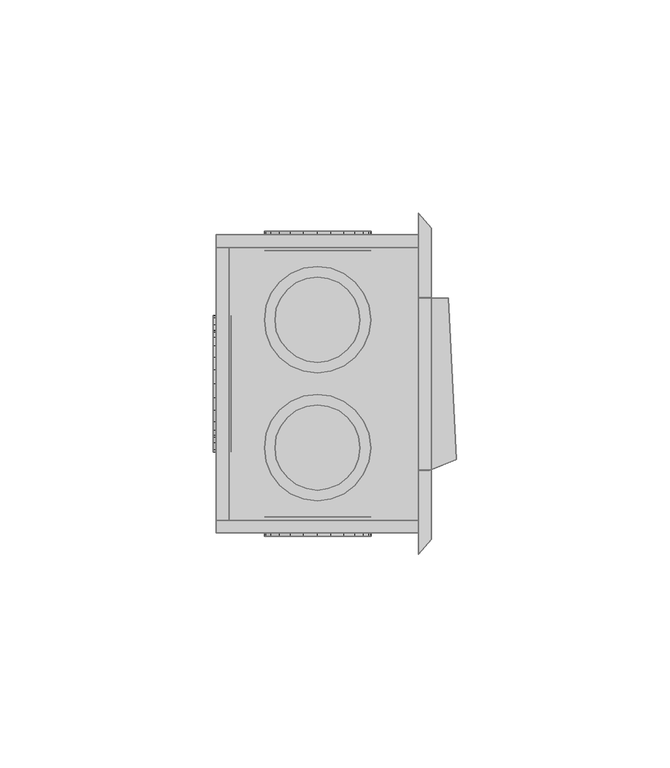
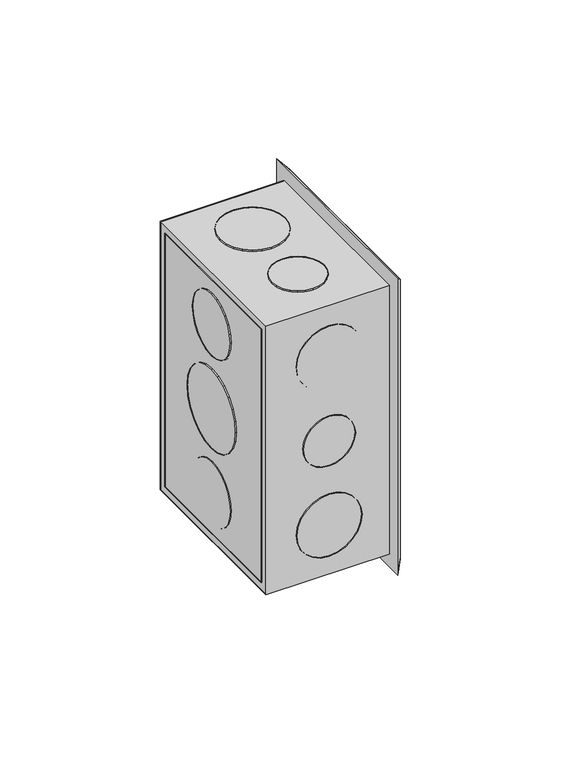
"""IFC4 building model written with IfcOpenShell, lengths in millimetres: proxy geometry,  210113 :  210113."""

from ifc_helpers import new_model, si_unit, origin, place, context, project, spatial, triangles, source, transform, mapped, element, save


def generic_models_2e906244(model_context):
    return source(origin(), model_context, "Body", "Tessellation", [
        triangles([(6623.3997849, 15666.8995239, 1254.3000378), (6623.3997849, 15663.899707, 1148.7000154), (6623.3997849, 15666.8995239, 1145.6999805), (6623.3997849, 15663.899707, 1251.2999302), (6623.3997849, 15596.9003082, 1254.3000378), (6623.3997849, 15599.9001251, 1251.2999302), (6623.3997849, 15596.9003082, 1145.6999805), (6623.3997849, 15599.9001251, 1148.7000154), (6575.8997772, 15663.899707, 1251.2999302), (6575.8997772, 15663.899707, 1148.7000154), (6575.8997772, 15596.9003082, 1254.3000378), (6575.8997772, 15596.9003082, 1145.6999805), (6575.8997772, 15599.9001251, 1251.2999302), (6575.8997772, 15666.8995239, 1145.6999805), (6575.8997772, 15599.9001251, 1148.7000154), (6575.8997772, 15666.8995239, 1254.3000378), (6578.9001755, 15663.899707, 1251.2999302), (6578.9001755, 15599.9001251, 1148.7000154), (6578.9001755, 15663.899707, 1148.7000154), (6578.9001755, 15599.9001251, 1251.2999302), (6579.400145, 15645.799649, 1191.9999887), (6579.400145, 15639.9000092, 1186.0999855), (6579.400145, 15643.1998077, 1188.6999722), (6579.400145, 15647.3995514, 1195.8999687), (6579.400145, 15636.1002411, 1184.5000105), (6579.400145, 15647.8995209, 1200.0000092), (6579.400145, 15631.9004974, 1183.9999683), (6579.400145, 15647.3995514, 1204.0999769), (6579.400145, 15627.799585, 1184.5000105), (6579.400145, 15645.799649, 1208.0000296), (6579.400145, 15623.899823, 1186.0999855), (6579.400145, 15643.1998077, 1211.2999735), (6579.400145, 15620.6000244, 1188.6999722), (6579.400145, 15639.9000092, 1213.9000328), (6579.400145, 15618.100177, 1191.9999887), (6579.400145, 15636.1002411, 1215.5000078), (6579.400145, 15616.5002747, 1195.8999687), (6579.400145, 15631.9004974, 1215.9999773), (6579.400145, 15615.9003113, 1200.0000092), (6579.400145, 15627.799585, 1215.5000078), (6579.400145, 15616.5002747, 1204.0999769), (6579.400145, 15623.899823, 1213.9000328), (6579.400145, 15618.100177, 1208.0000296), (6579.400145, 15620.6000244, 1211.2999735), (6575.1998199, 15627.799585, 1184.5000105), (6575.1998199, 15631.9004974, 1183.9999683), (6575.1998199, 15636.1002411, 1184.5000105), (6575.1998199, 15639.9000092, 1186.0999855), (6575.1998199, 15643.1998077, 1188.6999722), (6575.1998199, 15645.799649, 1191.9999887), (6575.1998199, 15647.3995514, 1195.8999687), (6575.1998199, 15647.8995209, 1200.0000092), (6575.1998199, 15647.3995514, 1204.0999769), (6575.1998199, 15645.799649, 1208.0000296), (6575.1998199, 15643.1998077, 1211.2999735), (6575.1998199, 15639.9000092, 1213.9000328), (6575.1998199, 15636.1002411, 1215.5000078), (6575.1998199, 15631.9004974, 1215.9999773), (6575.1998199, 15627.799585, 1215.5000078), (6575.1998199, 15623.899823, 1213.9000328), (6575.1998199, 15620.6000244, 1211.2999735), (6575.1998199, 15618.100177, 1208.0000296), (6575.1998199, 15616.5002747, 1204.0999769), (6575.1998199, 15615.9003113, 1200.0000092), (6575.1998199, 15616.5002747, 1195.8999687), (6575.1998199, 15618.100177, 1191.9999887), (6575.1998199, 15620.6000244, 1188.6999722), (6575.1998199, 15623.899823, 1186.0999855), (6579.400145, 15642.7998322, 1227.8000565), (6579.400145, 15638.2001129, 1223.2000465), (6579.400145, 15640.7999542, 1225.2000698), (6579.400145, 15643.9997589, 1230.8000187), (6579.400145, 15635.200296, 1221.8999805), (6579.400145, 15644.3997345, 1233.9999687), (6579.400145, 15631.9004974, 1221.500005), (6579.400145, 15643.9997589, 1237.2000641), (6579.400145, 15628.69953, 1221.8999805), (6579.400145, 15642.7998322, 1240.3000202), (6579.400145, 15625.6997131, 1223.2000465), (6579.400145, 15640.7999542, 1242.800013), (6579.400145, 15623.0998718, 1225.2000698), (6579.400145, 15621.0999939, 1227.8000565), (6579.400145, 15638.2001129, 1244.8000362), (6579.400145, 15635.200296, 1246.0999569), (6579.400145, 15619.9000671, 1230.8000187), (6579.400145, 15631.9004974, 1246.4999325), (6579.400145, 15619.4000977, 1233.9999687), (6579.400145, 15628.69953, 1246.0999569), (6579.400145, 15619.9000671, 1237.2000641), (6579.400145, 15621.0999939, 1240.3000202), (6579.400145, 15625.6997131, 1244.8000362), (6579.400145, 15623.0998718, 1242.800013), (6575.1998199, 15619.9000671, 1230.8000187), (6575.1998199, 15621.0999939, 1227.8000565), (6575.1998199, 15623.0998718, 1225.2000698), (6575.1998199, 15625.6997131, 1223.2000465), (6575.1998199, 15628.69953, 1221.8999805), (6575.1998199, 15631.9004974, 1221.500005), (6575.1998199, 15635.200296, 1221.8999805), (6575.1998199, 15638.2001129, 1223.2000465), (6575.1998199, 15640.7999542, 1225.2000698), (6575.1998199, 15642.7998322, 1227.8000565), (6575.1998199, 15643.9997589, 1230.8000187), (6575.1998199, 15644.3997345, 1233.9999687), (6575.1998199, 15643.9997589, 1237.2000641), (6575.1998199, 15642.7998322, 1240.3000202), (6575.1998199, 15640.7999542, 1242.800013), (6575.1998199, 15638.2001129, 1244.8000362), (6575.1998199, 15635.200296, 1246.0999569), (6575.1998199, 15631.9004974, 1246.4999325), (6575.1998199, 15628.69953, 1246.0999569), (6575.1998199, 15625.6997131, 1244.8000362), (6575.1998199, 15623.0998718, 1242.800013), (6575.1998199, 15621.0999939, 1240.3000202), (6575.1998199, 15619.9000671, 1237.2000641), (6575.1998199, 15619.4000977, 1233.9999687), (6575.1998199, 15638.2001129, 1155.1999821), (6575.1998199, 15642.7998322, 1159.6999981), (6575.1998199, 15640.7999542, 1157.2000053), (6575.1998199, 15635.200296, 1153.8999887), (6575.1998199, 15643.9997589, 1162.8000269), (6575.1998199, 15631.9004974, 1153.5000132), (6575.1998199, 15644.3997345, 1165.9999769), (6575.1998199, 15628.69953, 1153.8999887), (6575.1998199, 15643.9997589, 1169.1999996), (6575.1998199, 15625.6997131, 1155.1999821), (6575.1998199, 15642.7998322, 1172.2000345), (6575.1998199, 15623.0998718, 1157.2000053), (6575.1998199, 15640.7999542, 1174.8000212), (6575.1998199, 15621.0999939, 1159.6999981), (6575.1998199, 15638.2001129, 1176.7999718), (6575.1998199, 15619.9000671, 1162.8000269), (6575.1998199, 15635.200296, 1178.0999651), (6575.1998199, 15631.9004974, 1178.5000134), (6575.1998199, 15619.4000977, 1165.9999769), (6575.1998199, 15619.9000671, 1169.1999996), (6575.1998199, 15628.69953, 1178.0999651), (6575.1998199, 15621.0999939, 1172.2000345), (6575.1998199, 15625.6997131, 1176.7999718), (6575.1998199, 15623.0998718, 1174.8000212), (6579.400145, 15635.200296, 1178.0999651), (6579.400145, 15631.9004974, 1178.5000134), (6579.400145, 15638.2001129, 1176.7999718), (6579.400145, 15640.7999542, 1174.8000212), (6579.400145, 15642.7998322, 1172.2000345), (6579.400145, 15643.9997589, 1169.1999996), (6579.400145, 15644.3997345, 1165.9999769), (6579.400145, 15643.9997589, 1162.8000269), (6579.400145, 15642.7998322, 1159.6999981), (6579.400145, 15640.7999542, 1157.2000053), (6579.400145, 15638.2001129, 1155.1999821), (6579.400145, 15635.200296, 1153.8999887), (6579.400145, 15631.9004974, 1153.5000132), (6579.400145, 15628.69953, 1153.8999887), (6579.400145, 15625.6997131, 1155.1999821), (6579.400145, 15623.0998718, 1157.2000053), (6579.400145, 15621.0999939, 1159.6999981), (6579.400145, 15619.9000671, 1162.8000269), (6579.400145, 15619.4000977, 1165.9999769), (6579.400145, 15619.9000671, 1169.1999996), (6579.400145, 15621.0999939, 1172.2000345), (6579.400145, 15623.0998718, 1174.8000212), (6579.400145, 15625.6997131, 1176.7999718), (6579.400145, 15628.69953, 1178.0999651), (6594.6997925, 15663.0997559, 1191.3000315), (6591.0000183, 15663.0997559, 1195.0000237), (6592.5999207, 15663.0997559, 1192.9000065), (6590.0000793, 15663.0997559, 1197.4000225), (6597.1002274, 15663.0997559, 1190.3000198), (6589.7000977, 15663.0997559, 1200.0000092), (6599.7000687, 15663.0997559, 1189.9999655), (6602.1999161, 15663.0997559, 1190.3000198), (6590.0000793, 15663.0997559, 1202.5999958), (6591.0000183, 15663.0997559, 1204.9999947), (6604.6997635, 15663.0997559, 1191.3000315), (6592.5999207, 15663.0997559, 1207.1000118), (6606.7002228, 15663.0997559, 1192.9000065), (6608.3001251, 15663.0997559, 1195.0000237), (6594.6997925, 15663.0997559, 1208.6999868), (6609.3000641, 15663.0997559, 1197.4000225), (6597.1002274, 15663.0997559, 1209.6999985), (6609.7000397, 15663.0997559, 1200.0000092), (6599.7000687, 15663.0997559, 1209.9999802), (6609.3000641, 15663.0997559, 1202.5999958), (6602.1999161, 15663.0997559, 1209.6999985), (6604.6997635, 15663.0997559, 1208.6999868), (6608.3001251, 15663.0997559, 1204.9999947), (6606.7002228, 15663.0997559, 1207.1000118), (6599.7000687, 15667.6994751, 1189.9999655), (6597.1002274, 15667.6994751, 1190.3000198), (6602.1999161, 15667.6994751, 1190.3000198), (6604.6997635, 15667.6994751, 1191.3000315), (6606.7002228, 15667.6994751, 1192.9000065), (6608.3001251, 15667.6994751, 1195.0000237), (6609.3000641, 15667.6994751, 1197.4000225), (6609.7000397, 15667.6994751, 1200.0000092), (6609.3000641, 15667.6994751, 1202.5999958), (6608.3001251, 15667.6994751, 1204.9999947), (6606.7002228, 15667.6994751, 1207.1000118), (6604.6997635, 15667.6994751, 1208.6999868), (6602.1999161, 15667.6994751, 1209.6999985), (6599.7000687, 15667.6994751, 1209.9999802), (6597.1002274, 15667.6994751, 1209.6999985), (6594.6997925, 15667.6994751, 1208.6999868), (6592.5999207, 15667.6994751, 1207.1000118), (6591.0000183, 15667.6994751, 1204.9999947), (6590.0000793, 15667.6994751, 1202.5999958), (6589.7000977, 15667.6994751, 1200.0000092), (6590.0000793, 15667.6994751, 1197.4000225), (6591.0000183, 15667.6994751, 1195.0000237), (6592.5999207, 15667.6994751, 1192.9000065), (6594.6997925, 15667.6994751, 1191.3000315), (6593.3998718, 15663.0997559, 1223.2000465), (6588.8001526, 15663.0997559, 1227.8000565), (6590.8000305, 15663.0997559, 1225.2000698), (6596.4002701, 15663.0997559, 1221.8999805), (6587.6002258, 15663.0997559, 1230.8000187), (6587.2002502, 15663.0997559, 1233.9999687), (6599.7000687, 15663.0997559, 1221.500005), (6602.8998734, 15663.0997559, 1221.8999805), (6587.6002258, 15663.0997559, 1237.2000641), (6588.8001526, 15663.0997559, 1240.3000202), (6605.9002716, 15663.0997559, 1223.2000465), (6608.5001129, 15663.0997559, 1225.2000698), (6590.8000305, 15663.0997559, 1242.800013), (6610.4999908, 15663.0997559, 1227.8000565), (6593.3998718, 15663.0997559, 1244.8000362), (6611.6999176, 15663.0997559, 1230.8000187), (6596.4002701, 15663.0997559, 1246.0999569), (6612.1998871, 15663.0997559, 1233.9999687), (6599.7000687, 15663.0997559, 1246.4999325), (6611.6999176, 15663.0997559, 1237.2000641), (6602.8998734, 15663.0997559, 1246.0999569), (6610.4999908, 15663.0997559, 1240.3000202), (6605.9002716, 15663.0997559, 1244.8000362), (6608.5001129, 15663.0997559, 1242.800013), (6599.7000687, 15667.6994751, 1221.500005), (6596.4002701, 15667.6994751, 1221.8999805), (6602.8998734, 15667.6994751, 1221.8999805), (6605.9002716, 15667.6994751, 1223.2000465), (6608.5001129, 15667.6994751, 1225.2000698), (6610.4999908, 15667.6994751, 1227.8000565), (6611.6999176, 15667.6994751, 1230.8000187), (6612.1998871, 15667.6994751, 1233.9999687), (6611.6999176, 15667.6994751, 1237.2000641), (6610.4999908, 15667.6994751, 1240.3000202), (6608.5001129, 15667.6994751, 1242.800013), (6605.9002716, 15667.6994751, 1244.8000362), (6602.8998734, 15667.6994751, 1246.0999569), (6599.7000687, 15667.6994751, 1246.4999325), (6596.4002701, 15667.6994751, 1246.0999569), (6593.3998718, 15667.6994751, 1244.8000362), (6590.8000305, 15667.6994751, 1242.800013), (6588.8001526, 15667.6994751, 1240.3000202), (6587.6002258, 15667.6994751, 1237.2000641), (6587.2002502, 15667.6994751, 1233.9999687), (6587.6002258, 15667.6994751, 1230.8000187), (6588.8001526, 15667.6994751, 1227.8000565), (6590.8000305, 15667.6994751, 1225.2000698), (6593.3998718, 15667.6994751, 1223.2000465), (6588.8001526, 15667.6994751, 1159.6999981), (6593.3998718, 15667.6994751, 1155.1999821), (6590.8000305, 15667.6994751, 1157.2000053), (6587.6002258, 15667.6994751, 1162.8000269), (6596.4002701, 15667.6994751, 1153.8999887), (6587.2002502, 15667.6994751, 1165.9999769), (6599.7000687, 15667.6994751, 1153.5000132), (6587.6002258, 15667.6994751, 1169.1999996), (6602.8998734, 15667.6994751, 1153.8999887), (6588.8001526, 15667.6994751, 1172.2000345), (6605.9002716, 15667.6994751, 1155.1999821), (6590.8000305, 15667.6994751, 1174.8000212), (6608.5001129, 15667.6994751, 1157.2000053), (6593.3998718, 15667.6994751, 1176.7999718), (6610.4999908, 15667.6994751, 1159.6999981), (6596.4002701, 15667.6994751, 1178.0999651), (6611.6999176, 15667.6994751, 1162.8000269), (6599.7000687, 15667.6994751, 1178.5000134), (6612.1998871, 15667.6994751, 1165.9999769), (6602.8998734, 15667.6994751, 1178.0999651), (6611.6999176, 15667.6994751, 1169.1999996), (6605.9002716, 15667.6994751, 1176.7999718), (6610.4999908, 15667.6994751, 1172.2000345), (6608.5001129, 15667.6994751, 1174.8000212), (6596.4002701, 15663.0997559, 1178.0999651), (6599.7000687, 15663.0997559, 1178.5000134), (6602.8998734, 15663.0997559, 1178.0999651), (6605.9002716, 15663.0997559, 1176.7999718), (6608.5001129, 15663.0997559, 1174.8000212), (6610.4999908, 15663.0997559, 1172.2000345), (6611.6999176, 15663.0997559, 1169.1999996), (6612.1998871, 15663.0997559, 1165.9999769), (6611.6999176, 15663.0997559, 1162.8000269), (6610.4999908, 15663.0997559, 1159.6999981), (6608.5001129, 15663.0997559, 1157.2000053), (6605.9002716, 15663.0997559, 1155.1999821), (6602.8998734, 15663.0997559, 1153.8999887), (6599.7000687, 15663.0997559, 1153.5000132), (6596.4002701, 15663.0997559, 1153.8999887), (6593.3998718, 15663.0997559, 1155.1999821), (6590.8000305, 15663.0997559, 1157.2000053), (6588.8001526, 15663.0997559, 1159.6999981), (6587.6002258, 15663.0997559, 1162.8000269), (6587.2002502, 15663.0997559, 1165.9999769), (6587.6002258, 15663.0997559, 1169.1999996), (6588.8001526, 15663.0997559, 1172.2000345), (6590.8000305, 15663.0997559, 1174.8000212), (6593.3998718, 15663.0997559, 1176.7999718), (6591.0000183, 15600.7000763, 1195.0000237), (6594.6997925, 15600.7000763, 1191.3000315), (6592.5999207, 15600.7000763, 1192.9000065), (6590.0000793, 15600.7000763, 1197.4000225), (6597.1002274, 15600.7000763, 1190.3000198), (6589.7000977, 15600.7000763, 1200.0000092), (6599.7000687, 15600.7000763, 1189.9999655), (6590.0000793, 15600.7000763, 1202.5999958), (6602.1999161, 15600.7000763, 1190.3000198), (6591.0000183, 15600.7000763, 1204.9999947), (6604.6997635, 15600.7000763, 1191.3000315), (6592.5999207, 15600.7000763, 1207.1000118), (6606.7002228, 15600.7000763, 1192.9000065), (6594.6997925, 15600.7000763, 1208.6999868), (6608.3001251, 15600.7000763, 1195.0000237), (6597.1002274, 15600.7000763, 1209.6999985), (6609.3000641, 15600.7000763, 1197.4000225), (6609.7000397, 15600.7000763, 1200.0000092), (6599.7000687, 15600.7000763, 1209.9999802), (6602.1999161, 15600.7000763, 1209.6999985), (6609.3000641, 15600.7000763, 1202.5999958), (6604.6997635, 15600.7000763, 1208.6999868), (6608.3001251, 15600.7000763, 1204.9999947), (6606.7002228, 15600.7000763, 1207.1000118), (6597.1002274, 15596.1003571, 1209.6999985), (6599.7000687, 15596.1003571, 1209.9999802), (6602.1999161, 15596.1003571, 1209.6999985), (6604.6997635, 15596.1003571, 1208.6999868), (6606.7002228, 15596.1003571, 1207.1000118), (6608.3001251, 15596.1003571, 1204.9999947), (6609.3000641, 15596.1003571, 1202.5999958), (6609.7000397, 15596.1003571, 1200.0000092), (6609.3000641, 15596.1003571, 1197.4000225), (6608.3001251, 15596.1003571, 1195.0000237), (6606.7002228, 15596.1003571, 1192.9000065), (6604.6997635, 15596.1003571, 1191.3000315), (6602.1999161, 15596.1003571, 1190.3000198), (6599.7000687, 15596.1003571, 1189.9999655), (6597.1002274, 15596.1003571, 1190.3000198), (6594.6997925, 15596.1003571, 1191.3000315), (6592.5999207, 15596.1003571, 1192.9000065), (6591.0000183, 15596.1003571, 1195.0000237), (6590.0000793, 15596.1003571, 1197.4000225), (6589.7000977, 15596.1003571, 1200.0000092), (6590.0000793, 15596.1003571, 1202.5999958), (6591.0000183, 15596.1003571, 1204.9999947), (6592.5999207, 15596.1003571, 1207.1000118), (6594.6997925, 15596.1003571, 1208.6999868), (6588.8001526, 15600.7000763, 1159.6999981), (6593.3998718, 15600.7000763, 1155.1999821), (6590.8000305, 15600.7000763, 1157.2000053), (6587.6002258, 15600.7000763, 1162.8000269), (6596.4002701, 15600.7000763, 1153.8999887), (6587.2002502, 15600.7000763, 1165.9999769), (6599.7000687, 15600.7000763, 1153.5000132), (6587.6002258, 15600.7000763, 1169.1999996), (6602.8998734, 15600.7000763, 1153.8999887), (6588.8001526, 15600.7000763, 1172.2000345), (6605.9002716, 15600.7000763, 1155.1999821), (6590.8000305, 15600.7000763, 1174.8000212), (6608.5001129, 15600.7000763, 1157.2000053), (6593.3998718, 15600.7000763, 1176.7999718), (6610.4999908, 15600.7000763, 1159.6999981), (6596.4002701, 15600.7000763, 1178.0999651), (6611.6999176, 15600.7000763, 1162.8000269), (6599.7000687, 15600.7000763, 1178.5000134), (6612.1998871, 15600.7000763, 1165.9999769), (6602.8998734, 15600.7000763, 1178.0999651), (6611.6999176, 15600.7000763, 1169.1999996), (6605.9002716, 15600.7000763, 1176.7999718), (6610.4999908, 15600.7000763, 1172.2000345), (6608.5001129, 15600.7000763, 1174.8000212), (6596.4002701, 15596.1003571, 1178.0999651), (6599.7000687, 15596.1003571, 1178.5000134), (6602.8998734, 15596.1003571, 1178.0999651), (6605.9002716, 15596.1003571, 1176.7999718), (6608.5001129, 15596.1003571, 1174.8000212), (6610.4999908, 15596.1003571, 1172.2000345), (6611.6999176, 15596.1003571, 1169.1999996), (6612.1998871, 15596.1003571, 1165.9999769), (6611.6999176, 15596.1003571, 1162.8000269), (6610.4999908, 15596.1003571, 1159.6999981), (6608.5001129, 15596.1003571, 1157.2000053), (6605.9002716, 15596.1003571, 1155.1999821), (6602.8998734, 15596.1003571, 1153.8999887), (6599.7000687, 15596.1003571, 1153.5000132), (6596.4002701, 15596.1003571, 1153.8999887), (6593.3998718, 15596.1003571, 1155.1999821), (6590.8000305, 15596.1003571, 1157.2000053), (6588.8001526, 15596.1003571, 1159.6999981), (6587.6002258, 15596.1003571, 1162.8000269), (6587.2002502, 15596.1003571, 1165.9999769), (6587.6002258, 15596.1003571, 1169.1999996), (6588.8001526, 15596.1003571, 1172.2000345), (6590.8000305, 15596.1003571, 1174.8000212), (6593.3998718, 15596.1003571, 1176.7999718), (6593.3998718, 15596.1003571, 1223.2000465), (6588.8001526, 15596.1003571, 1227.8000565), (6590.8000305, 15596.1003571, 1225.2000698), (6596.4002701, 15596.1003571, 1221.8999805), (6587.6002258, 15596.1003571, 1230.8000187), (6587.2002502, 15596.1003571, 1233.9999687), (6599.7000687, 15596.1003571, 1221.500005), (6602.8998734, 15596.1003571, 1221.8999805), (6587.6002258, 15596.1003571, 1237.2000641), (6588.8001526, 15596.1003571, 1240.3000202), (6605.9002716, 15596.1003571, 1223.2000465), (6608.5001129, 15596.1003571, 1225.2000698), (6590.8000305, 15596.1003571, 1242.800013), (6610.4999908, 15596.1003571, 1227.8000565), (6593.3998718, 15596.1003571, 1244.8000362), (6611.6999176, 15596.1003571, 1230.8000187), (6596.4002701, 15596.1003571, 1246.0999569), (6612.1998871, 15596.1003571, 1233.9999687), (6599.7000687, 15596.1003571, 1246.4999325), (6611.6999176, 15596.1003571, 1237.2000641), (6602.8998734, 15596.1003571, 1246.0999569), (6610.4999908, 15596.1003571, 1240.3000202), (6605.9002716, 15596.1003571, 1244.8000362), (6608.5001129, 15596.1003571, 1242.800013), (6599.7000687, 15600.7000763, 1221.500005), (6596.4002701, 15600.7000763, 1221.8999805), (6602.8998734, 15600.7000763, 1221.8999805), (6605.9002716, 15600.7000763, 1223.2000465), (6608.5001129, 15600.7000763, 1225.2000698), (6610.4999908, 15600.7000763, 1227.8000565), (6611.6999176, 15600.7000763, 1230.8000187), (6612.1998871, 15600.7000763, 1233.9999687), (6611.6999176, 15600.7000763, 1237.2000641), (6610.4999908, 15600.7000763, 1240.3000202), (6608.5001129, 15600.7000763, 1242.800013), (6605.9002716, 15600.7000763, 1244.8000362), (6602.8998734, 15600.7000763, 1246.0999569), (6599.7000687, 15600.7000763, 1246.4999325), (6596.4002701, 15600.7000763, 1246.0999569), (6593.3998718, 15600.7000763, 1244.8000362), (6590.8000305, 15600.7000763, 1242.800013), (6588.8001526, 15600.7000763, 1240.3000202), (6587.6002258, 15600.7000763, 1237.2000641), (6587.2002502, 15600.7000763, 1233.9999687), (6587.6002258, 15600.7000763, 1230.8000187), (6588.8001526, 15600.7000763, 1227.8000565), (6590.8000305, 15600.7000763, 1225.2000698), (6593.3998718, 15600.7000763, 1223.2000465), (6593.3998718, 15657.8000793, 1250.9999485), (6588.8001526, 15653.2003601, 1250.9999485), (6590.8000305, 15655.8002014, 1250.9999485), (6596.4002701, 15659.0000061, 1250.9999485), (6587.6002258, 15650.2005432, 1250.9999485), (6587.2002502, 15646.8995819, 1250.9999485), (6599.7000687, 15659.3999817, 1250.9999485), (6602.8998734, 15659.0000061, 1250.9999485), (6587.6002258, 15643.6997772, 1250.9999485), (6588.8001526, 15640.6999603, 1250.9999485), (6605.9002716, 15657.8000793, 1250.9999485), (6608.5001129, 15655.8002014, 1250.9999485), (6590.8000305, 15638.100119, 1250.9999485), (6593.3998718, 15636.1002411, 1250.9999485), (6610.4999908, 15653.2003601, 1250.9999485), (6611.6999176, 15650.2005432, 1250.9999485), (6596.4002701, 15634.9003143, 1250.9999485), (6612.1998871, 15646.8995819, 1250.9999485), (6599.7000687, 15634.4003448, 1250.9999485), (6611.6999176, 15643.6997772, 1250.9999485), (6602.8998734, 15634.9003143, 1250.9999485), (6605.9002716, 15636.1002411, 1250.9999485), (6610.4999908, 15640.6999603, 1250.9999485), (6608.5001129, 15638.100119, 1250.9999485), (6587.2002502, 15646.8995819, 1255.1999828), (6587.6002258, 15643.6997772, 1255.1999828), (6587.6002258, 15650.2005432, 1255.1999828), (6588.8001526, 15653.2003601, 1255.1999828), (6590.8000305, 15655.8002014, 1255.1999828), (6593.3998718, 15657.8000793, 1255.1999828), (6596.4002701, 15659.0000061, 1255.1999828), (6599.7000687, 15659.3999817, 1255.1999828), (6602.8998734, 15659.0000061, 1255.1999828), (6605.9002716, 15657.8000793, 1255.1999828), (6608.5001129, 15655.8002014, 1255.1999828), (6610.4999908, 15653.2003601, 1255.1999828), (6611.6999176, 15650.2005432, 1255.1999828), (6612.1998871, 15646.8995819, 1255.1999828), (6611.6999176, 15643.6997772, 1255.1999828), (6610.4999908, 15640.6999603, 1255.1999828), (6608.5001129, 15638.100119, 1255.1999828), (6605.9002716, 15636.1002411, 1255.1999828), (6602.8998734, 15634.9003143, 1255.1999828), (6599.7000687, 15634.4003448, 1255.1999828), (6596.4002701, 15634.9003143, 1255.1999828), (6593.3998718, 15636.1002411, 1255.1999828), (6590.8000305, 15638.100119, 1255.1999828), (6588.8001526, 15640.6999603, 1255.1999828), (6594.6997925, 15625.5997192, 1250.9999485), (6591.0000183, 15621.8999451, 1250.9999485), (6592.5999207, 15623.9998169, 1250.9999485), (6590.0000793, 15619.5000916, 1250.9999485), (6597.1002274, 15626.5996582, 1250.9999485), (6589.7000977, 15616.9002502, 1250.9999485), (6599.7000687, 15626.8996399, 1250.9999485), (6602.1999161, 15626.5996582, 1250.9999485), (6590.0000793, 15614.3004089, 1250.9999485), (6591.0000183, 15611.9005554, 1250.9999485), (6604.6997635, 15625.5997192, 1250.9999485), (6592.5999207, 15609.8995148, 1250.9999485), (6606.7002228, 15623.9998169, 1250.9999485), (6608.3001251, 15621.8999451, 1250.9999485), (6594.6997925, 15608.2996124, 1250.9999485), (6597.1002274, 15607.2996735, 1250.9999485), (6609.3000641, 15619.5000916, 1250.9999485), (6609.7000397, 15616.9002502, 1250.9999485), (6599.7000687, 15606.8996979, 1250.9999485), (6609.3000641, 15614.3004089, 1250.9999485), (6602.1999161, 15607.2996735, 1250.9999485), (6608.3001251, 15611.9005554, 1250.9999485), (6604.6997635, 15608.2996124, 1250.9999485), (6606.7002228, 15609.8995148, 1250.9999485), (6590.0000793, 15614.3004089, 1255.1999828), (6591.0000183, 15611.9005554, 1255.1999828), (6589.7000977, 15616.9002502, 1255.1999828), (6590.0000793, 15619.5000916, 1255.1999828), (6591.0000183, 15621.8999451, 1255.1999828), (6592.5999207, 15623.9998169, 1255.1999828), (6594.6997925, 15625.5997192, 1255.1999828), (6597.1002274, 15626.5996582, 1255.1999828), (6599.7000687, 15626.8996399, 1255.1999828), (6602.1999161, 15626.5996582, 1255.1999828), (6604.6997635, 15625.5997192, 1255.1999828), (6606.7002228, 15623.9998169, 1255.1999828), (6608.3001251, 15621.8999451, 1255.1999828), (6609.3000641, 15619.5000916, 1255.1999828), (6609.7000397, 15616.9002502, 1255.1999828), (6609.3000641, 15614.3004089, 1255.1999828), (6608.3001251, 15611.9005554, 1255.1999828), (6606.7002228, 15609.8995148, 1255.1999828), (6604.6997635, 15608.2996124, 1255.1999828), (6602.1999161, 15607.2996735, 1255.1999828), (6599.7000687, 15606.8996979, 1255.1999828), (6597.1002274, 15607.2996735, 1255.1999828), (6594.6997925, 15608.2996124, 1255.1999828), (6592.5999207, 15609.8995148, 1255.1999828), (6594.6997925, 15655.6002136, 1144.8000355), (6591.0000183, 15651.9004395, 1144.8000355), (6592.5999207, 15654.0003113, 1144.8000355), (6590.0000793, 15649.4994232, 1144.8000355), (6597.1002274, 15656.6001526, 1144.8000355), (6589.7000977, 15646.8995819, 1144.8000355), (6599.7000687, 15656.9001343, 1144.8000355), (6602.1999161, 15656.6001526, 1144.8000355), (6590.0000793, 15644.2997406, 1144.8000355), (6591.0000183, 15641.8998871, 1144.8000355), (6604.6997635, 15655.6002136, 1144.8000355), (6592.5999207, 15639.9000092, 1144.8000355), (6606.7002228, 15654.0003113, 1144.8000355), (6608.3001251, 15651.9004395, 1144.8000355), (6594.6997925, 15638.3001068, 1144.8000355), (6597.1002274, 15637.3001678, 1144.8000355), (6609.3000641, 15649.4994232, 1144.8000355), (6609.7000397, 15646.8995819, 1144.8000355), (6599.7000687, 15636.9001923, 1144.8000355), (6609.3000641, 15644.2997406, 1144.8000355), (6602.1999161, 15637.3001678, 1144.8000355), (6608.3001251, 15641.8998871, 1144.8000355), (6604.6997635, 15638.3001068, 1144.8000355), (6606.7002228, 15639.9000092, 1144.8000355), (6590.0000793, 15649.4994232, 1149.099991), (6589.7000977, 15646.8995819, 1149.099991), (6591.0000183, 15651.9004395, 1149.099991), (6592.5999207, 15654.0003113, 1149.099991), (6594.6997925, 15655.6002136, 1149.099991), (6597.1002274, 15656.6001526, 1149.099991), (6599.7000687, 15656.9001343, 1149.099991), (6602.1999161, 15656.6001526, 1149.099991), (6604.6997635, 15655.6002136, 1149.099991), (6606.7002228, 15654.0003113, 1149.099991), (6608.3001251, 15651.9004395, 1149.099991), (6609.3000641, 15649.4994232, 1149.099991), (6609.7000397, 15646.8995819, 1149.099991), (6609.3000641, 15644.2997406, 1149.099991), (6608.3001251, 15641.8998871, 1149.099991), (6606.7002228, 15639.9000092, 1149.099991), (6604.6997635, 15638.3001068, 1149.099991), (6602.1999161, 15637.3001678, 1149.099991), (6599.7000687, 15636.9001923, 1149.099991), (6597.1002274, 15637.3001678, 1149.099991), (6594.6997925, 15638.3001068, 1149.099991), (6592.5999207, 15639.9000092, 1149.099991), (6591.0000183, 15641.8998871, 1149.099991), (6590.0000793, 15644.2997406, 1149.099991), (6593.3998718, 15627.799585, 1144.8000355), (6588.8001526, 15623.1998657, 1144.8000355), (6590.8000305, 15625.799707, 1144.8000355), (6596.4002701, 15628.9995117, 1144.8000355), (6587.6002258, 15620.2000488, 1144.8000355), (6587.2002502, 15616.9002502, 1144.8000355), (6599.7000687, 15629.3994873, 1144.8000355), (6602.8998734, 15628.9995117, 1144.8000355), (6587.6002258, 15613.7004456, 1144.8000355), (6588.8001526, 15610.6994659, 1144.8000355), (6605.9002716, 15627.799585, 1144.8000355), (6608.5001129, 15625.799707, 1144.8000355), (6590.8000305, 15608.0996246, 1144.8000355), (6593.3998718, 15606.0997467, 1144.8000355), (6610.4999908, 15623.1998657, 1144.8000355), (6611.6999176, 15620.2000488, 1144.8000355), (6596.4002701, 15604.8998199, 1144.8000355), (6612.1998871, 15616.9002502, 1144.8000355), (6599.7000687, 15604.3998505, 1144.8000355), (6611.6999176, 15613.7004456, 1144.8000355), (6602.8998734, 15604.8998199, 1144.8000355), (6605.9002716, 15606.0997467, 1144.8000355), (6610.4999908, 15610.6994659, 1144.8000355), (6608.5001129, 15608.0996246, 1144.8000355), (6587.6002258, 15613.7004456, 1149.099991), (6588.8001526, 15610.6994659, 1149.099991), (6587.2002502, 15616.9002502, 1149.099991), (6587.6002258, 15620.2000488, 1149.099991), (6588.8001526, 15623.1998657, 1149.099991), (6590.8000305, 15625.799707, 1149.099991), (6593.3998718, 15627.799585, 1149.099991), (6596.4002701, 15628.9995117, 1149.099991), (6599.7000687, 15629.3994873, 1149.099991), (6602.8998734, 15628.9995117, 1149.099991), (6605.9002716, 15627.799585, 1149.099991), (6608.5001129, 15625.799707, 1149.099991), (6610.4999908, 15623.1998657, 1149.099991), (6611.6999176, 15620.2000488, 1149.099991), (6612.1998871, 15616.9002502, 1149.099991), (6611.6999176, 15613.7004456, 1149.099991), (6610.4999908, 15610.6994659, 1149.099991), (6608.5001129, 15608.0996246, 1149.099991), (6605.9002716, 15606.0997467, 1149.099991), (6602.8998734, 15604.8998199, 1149.099991), (6599.7000687, 15604.3998505, 1149.099991), (6596.4002701, 15604.8998199, 1149.099991), (6593.3998718, 15606.0997467, 1149.099991), (6590.8000305, 15608.0996246, 1149.099991), (6623.3997849, 15591.8994507, 1139.9999651), (6623.3997849, 15652.1004272, 1188.2999966), (6623.3997849, 15671.9003815, 1139.9999651), (6623.3997849, 15611.7005676, 1188.2999966), (6623.3997849, 15591.8994507, 1259.9999805), (6623.3997849, 15611.7005676, 1211.7000217), (6623.3997849, 15671.9003815, 1259.9999805), (6623.3997849, 15652.1004272, 1211.7000217), (6626.4001831, 15611.7005676, 1188.2999966), (6626.4001831, 15611.7005676, 1211.7000217), (6626.4001831, 15652.1004272, 1188.2999966), (6626.4001831, 15652.1004272, 1211.7000217), (6626.4001831, 15668.3994324, 1143.4999695), (6626.4001831, 15668.3994324, 1256.5000488), (6626.4001831, 15595.4003998, 1143.4999695), (6626.4001831, 15595.4003998, 1256.5000488), (6630.399939, 15652.0004333, 1188.1000088), (6623.3997849, 15611.6005737, 1188.1000088), (6623.3997849, 15652.0004333, 1188.1000088), (6632.299823, 15614.200415, 1188.1000088), (6625.9002136, 15611.6005737, 1188.1000088), (6623.3997849, 15652.0004333, 1211.500034), (6623.3997849, 15611.6005737, 1211.500034), (6630.399939, 15652.0004333, 1211.500034), (6632.299823, 15614.200415, 1211.500034), (6625.9002136, 15611.6005737, 1211.500034)], [[1, 2, 3], [2, 1, 4], [5, 4, 1], [4, 5, 6], [3, 2, 7], [7, 2, 8], [7, 8, 6], [7, 6, 5], [2, 9, 10], [9, 2, 4], [7, 11, 12], [11, 7, 5], [4, 13, 9], [13, 4, 6], [3, 12, 14], [12, 3, 7], [13, 8, 15], [8, 13, 6], [16, 3, 14], [3, 16, 1], [15, 2, 10], [2, 15, 8], [11, 1, 16], [1, 11, 5], [12, 10, 14], [10, 12, 15], [11, 15, 12], [15, 11, 13], [14, 10, 16], [16, 10, 9], [16, 9, 13], [16, 13, 11], [17, 18, 19], [18, 17, 20], [18, 13, 15], [13, 18, 20], [19, 15, 10], [15, 19, 18], [9, 19, 10], [19, 9, 17], [13, 17, 9], [17, 13, 20], [15, 9, 10], [9, 15, 13], [21, 22, 23], [22, 21, 24], [25, 22, 24], [25, 24, 26], [27, 25, 26], [27, 26, 28], [29, 27, 28], [29, 28, 30], [31, 29, 30], [31, 30, 32], [31, 32, 33], [33, 32, 34], [33, 34, 35], [35, 34, 36], [35, 36, 37], [37, 36, 38], [37, 38, 39], [39, 38, 40], [39, 40, 41], [41, 40, 42], [41, 42, 43], [43, 42, 44], [27, 45, 46], [45, 27, 29], [25, 46, 47], [46, 25, 27], [22, 47, 48], [47, 22, 25], [23, 48, 49], [48, 23, 22], [50, 23, 49], [23, 50, 21], [51, 21, 50], [21, 51, 24], [52, 24, 51], [24, 52, 26], [53, 26, 52], [26, 53, 28], [54, 28, 53], [28, 54, 30], [55, 30, 54], [30, 55, 32], [56, 32, 55], [32, 56, 34], [57, 34, 56], [34, 57, 36], [58, 36, 57], [36, 58, 38], [59, 38, 58], [38, 59, 40], [60, 40, 59], [40, 60, 42], [61, 42, 60], [42, 61, 44], [43, 61, 62], [61, 43, 44], [41, 62, 63], [62, 41, 43], [39, 63, 64], [63, 39, 41], [37, 64, 65], [64, 37, 39], [35, 65, 66], [65, 35, 37], [33, 66, 67], [66, 33, 35], [31, 67, 68], [67, 31, 33], [29, 68, 45], [68, 29, 31], [48, 50, 49], [50, 48, 47], [51, 50, 47], [51, 47, 46], [52, 51, 46], [52, 46, 45], [53, 52, 45], [53, 45, 68], [54, 53, 68], [54, 68, 67], [54, 67, 55], [55, 67, 66], [55, 66, 56], [56, 66, 65], [56, 65, 57], [57, 65, 64], [57, 64, 58], [58, 64, 63], [58, 63, 59], [59, 63, 62], [59, 62, 60], [60, 62, 61], [69, 70, 71], [70, 69, 72], [73, 70, 72], [73, 72, 74], [75, 73, 74], [75, 74, 76], [77, 75, 76], [77, 76, 78], [79, 77, 78], [79, 78, 80], [81, 79, 80], [81, 80, 82], [82, 80, 83], [82, 83, 84], [82, 84, 85], [85, 84, 86], [85, 86, 87], [87, 86, 88], [87, 88, 89], [89, 88, 90], [90, 88, 91], [90, 91, 92], [82, 93, 94], [93, 82, 85], [81, 94, 95], [94, 81, 82], [79, 95, 96], [95, 79, 81], [77, 96, 97], [96, 77, 79], [75, 97, 98], [97, 75, 77], [73, 98, 99], [98, 73, 75], [70, 99, 100], [99, 70, 73], [71, 100, 101], [100, 71, 70], [102, 71, 101], [71, 102, 69], [103, 69, 102], [69, 103, 72], [104, 72, 103], [72, 104, 74], [105, 74, 104], [74, 105, 76], [106, 76, 105], [76, 106, 78], [107, 78, 106], [78, 107, 80], [108, 80, 107], [80, 108, 83], [109, 83, 108], [83, 109, 84], [110, 84, 109], [84, 110, 86], [111, 86, 110], [86, 111, 88], [112, 88, 111], [88, 112, 91], [113, 91, 112], [91, 113, 92], [90, 113, 114], [113, 90, 92], [89, 114, 115], [114, 89, 90], [87, 115, 116], [115, 87, 89], [85, 116, 93], [116, 85, 87], [100, 102, 101], [102, 100, 99], [103, 102, 99], [103, 99, 98], [104, 103, 98], [104, 98, 97], [105, 104, 97], [106, 105, 97], [106, 97, 96], [106, 96, 95], [106, 95, 107], [107, 95, 94], [107, 94, 108], [108, 94, 93], [108, 93, 109], [109, 93, 116], [109, 116, 110], [110, 116, 115], [110, 115, 111], [111, 115, 114], [111, 114, 112], [112, 114, 113], [117, 118, 119], [118, 117, 120], [121, 118, 120], [121, 120, 122], [123, 121, 122], [123, 122, 124], [125, 123, 124], [125, 124, 126], [127, 125, 126], [127, 126, 128], [127, 128, 129], [129, 128, 130], [129, 130, 131], [131, 130, 132], [131, 132, 133], [133, 132, 134], [134, 132, 135], [134, 135, 136], [134, 136, 137], [137, 136, 138], [137, 138, 139], [139, 138, 140], [134, 141, 133], [141, 134, 142], [133, 143, 131], [143, 133, 141], [131, 144, 129], [144, 131, 143], [129, 145, 127], [145, 129, 144], [127, 146, 125], [146, 127, 145], [125, 147, 123], [147, 125, 146], [123, 148, 121], [148, 123, 147], [121, 149, 118], [149, 121, 148], [118, 150, 119], [150, 118, 149], [150, 117, 119], [117, 150, 151], [151, 120, 117], [120, 151, 152], [152, 122, 120], [122, 152, 153], [153, 124, 122], [124, 153, 154], [154, 126, 124], [126, 154, 155], [155, 128, 126], [128, 155, 156], [156, 130, 128], [130, 156, 157], [157, 132, 130], [132, 157, 158], [158, 135, 132], [135, 158, 159], [159, 136, 135], [136, 159, 160], [160, 138, 136], [138, 160, 161], [161, 140, 138], [140, 161, 162], [140, 163, 139], [163, 140, 162], [139, 164, 137], [164, 139, 163], [137, 142, 134], [142, 137, 164], [149, 151, 150], [151, 149, 148], [152, 151, 148], [153, 152, 148], [153, 148, 147], [153, 147, 146], [154, 153, 146], [154, 146, 145], [155, 154, 145], [155, 145, 144], [156, 155, 144], [156, 144, 157], [157, 144, 143], [157, 143, 141], [157, 141, 158], [158, 141, 142], [158, 142, 159], [159, 142, 164], [159, 164, 160], [160, 164, 163], [160, 163, 161], [161, 163, 162], [165, 166, 167], [168, 166, 165], [168, 165, 169], [170, 168, 169], [170, 169, 171], [170, 171, 172], [173, 170, 172], [174, 173, 172], [174, 172, 175], [176, 174, 175], [176, 175, 177], [176, 177, 178], [176, 178, 179], [179, 178, 180], [179, 180, 181], [181, 180, 182], [181, 182, 183], [183, 182, 184], [183, 184, 185], [185, 184, 186], [186, 184, 187], [186, 187, 188], [189, 169, 190], [169, 189, 171], [191, 171, 189], [171, 191, 172], [192, 172, 191], [172, 192, 175], [193, 175, 192], [175, 193, 177], [194, 177, 193], [177, 194, 178], [195, 178, 194], [178, 195, 180], [196, 180, 195], [180, 196, 182], [197, 182, 196], [182, 197, 184], [198, 184, 197], [184, 198, 187], [199, 187, 198], [187, 199, 188], [186, 199, 200], [199, 186, 188], [185, 200, 201], [200, 185, 186], [183, 201, 202], [201, 183, 185], [181, 202, 203], [202, 181, 183], [179, 203, 204], [203, 179, 181], [176, 204, 205], [204, 176, 179], [174, 205, 206], [205, 174, 176], [173, 206, 207], [206, 173, 174], [170, 207, 208], [207, 170, 173], [168, 208, 209], [208, 168, 170], [166, 209, 210], [209, 166, 168], [167, 210, 211], [210, 167, 166], [212, 167, 211], [167, 212, 165], [190, 165, 212], [165, 190, 169], [210, 212, 211], [212, 210, 209], [190, 212, 209], [190, 209, 208], [189, 190, 208], [189, 208, 207], [191, 189, 207], [191, 207, 206], [192, 191, 206], [192, 206, 205], [192, 205, 193], [193, 205, 204], [193, 204, 194], [194, 204, 203], [194, 203, 195], [195, 203, 196], [196, 203, 202], [196, 202, 201], [196, 201, 197], [197, 201, 200], [197, 200, 198], [198, 200, 199], [213, 214, 215], [214, 213, 216], [217, 214, 216], [218, 217, 216], [218, 216, 219], [218, 219, 220], [221, 218, 220], [222, 221, 220], [222, 220, 223], [222, 223, 224], [222, 224, 225], [225, 224, 226], [225, 226, 227], [227, 226, 228], [227, 228, 229], [229, 228, 230], [229, 230, 231], [231, 230, 232], [231, 232, 233], [233, 232, 234], [233, 234, 235], [235, 234, 236], [237, 216, 238], [216, 237, 219], [239, 219, 237], [219, 239, 220], [240, 220, 239], [220, 240, 223], [241, 223, 240], [223, 241, 224], [242, 224, 241], [224, 242, 226], [243, 226, 242], [226, 243, 228], [244, 228, 243], [228, 244, 230], [245, 230, 244], [230, 245, 232], [246, 232, 245], [232, 246, 234], [247, 234, 246], [234, 247, 236], [235, 247, 248], [247, 235, 236], [233, 248, 249], [248, 233, 235], [231, 249, 250], [249, 231, 233], [229, 250, 251], [250, 229, 231], [227, 251, 252], [251, 227, 229], [225, 252, 253], [252, 225, 227], [222, 253, 254], [253, 222, 225], [221, 254, 255], [254, 221, 222], [218, 255, 256], [255, 218, 221], [217, 256, 257], [256, 217, 218], [214, 257, 258], [257, 214, 217], [215, 258, 259], [258, 215, 214], [260, 215, 259], [215, 260, 213], [238, 213, 260], [213, 238, 216], [258, 260, 259], [260, 258, 257], [238, 260, 257], [238, 257, 256], [237, 238, 256], [237, 256, 255], [239, 237, 255], [239, 255, 254], [240, 239, 254], [240, 254, 253], [241, 240, 253], [241, 253, 252], [241, 252, 242], [242, 252, 251], [242, 251, 243], [243, 251, 244], [244, 251, 250], [244, 250, 249], [244, 249, 245], [245, 249, 246], [246, 249, 248], [246, 248, 247], [261, 262, 263], [262, 261, 264], [265, 262, 264], [265, 264, 266], [267, 265, 266], [267, 266, 268], [269, 267, 268], [269, 268, 270], [271, 269, 270], [271, 270, 272], [273, 271, 272], [273, 272, 274], [273, 274, 275], [275, 274, 276], [275, 276, 277], [277, 276, 278], [277, 278, 279], [279, 278, 280], [279, 280, 281], [281, 280, 282], [281, 282, 283], [283, 282, 284], [285, 278, 276], [278, 285, 286], [286, 280, 278], [280, 286, 287], [287, 282, 280], [282, 287, 288], [288, 284, 282], [284, 288, 289], [284, 290, 283], [290, 284, 289], [283, 291, 281], [291, 283, 290], [281, 292, 279], [292, 281, 291], [279, 293, 277], [293, 279, 292], [277, 294, 275], [294, 277, 293], [275, 295, 273], [295, 275, 294], [273, 296, 271], [296, 273, 295], [271, 297, 269], [297, 271, 296], [269, 298, 267], [298, 269, 297], [267, 299, 265], [299, 267, 298], [265, 300, 262], [300, 265, 299], [262, 301, 263], [301, 262, 300], [301, 261, 263], [261, 301, 302], [302, 264, 261], [264, 302, 303], [303, 266, 264], [266, 303, 304], [304, 268, 266], [268, 304, 305], [305, 270, 268], [270, 305, 306], [306, 272, 270], [272, 306, 307], [307, 274, 272], [274, 307, 308], [308, 276, 274], [276, 308, 285], [300, 302, 301], [302, 300, 299], [303, 302, 299], [303, 299, 298], [304, 303, 298], [304, 298, 297], [305, 304, 297], [305, 297, 296], [306, 305, 296], [306, 296, 295], [306, 295, 307], [307, 295, 294], [307, 294, 308], [308, 294, 293], [308, 293, 285], [285, 293, 286], [286, 293, 292], [286, 292, 291], [286, 291, 287], [287, 291, 288], [288, 291, 290], [288, 290, 289], [309, 310, 311], [310, 309, 312], [313, 310, 312], [313, 312, 314], [315, 313, 314], [315, 314, 316], [317, 315, 316], [317, 316, 318], [319, 317, 318], [319, 318, 320], [319, 320, 321], [321, 320, 322], [321, 322, 323], [323, 322, 324], [323, 324, 325], [325, 324, 326], [326, 324, 327], [326, 327, 328], [326, 328, 329], [329, 328, 330], [329, 330, 331], [331, 330, 332], [333, 327, 324], [327, 333, 334], [334, 328, 327], [328, 334, 335], [335, 330, 328], [330, 335, 336], [336, 332, 330], [332, 336, 337], [332, 338, 331], [338, 332, 337], [331, 339, 329], [339, 331, 338], [329, 340, 326], [340, 329, 339], [326, 341, 325], [341, 326, 340], [325, 342, 323], [342, 325, 341], [323, 343, 321], [343, 323, 342], [321, 344, 319], [344, 321, 343], [319, 345, 317], [345, 319, 344], [317, 346, 315], [346, 317, 345], [315, 347, 313], [347, 315, 346], [313, 348, 310], [348, 313, 347], [310, 349, 311], [349, 310, 348], [349, 309, 311], [309, 349, 350], [350, 312, 309], [312, 350, 351], [351, 314, 312], [314, 351, 352], [352, 316, 314], [316, 352, 353], [353, 318, 316], [318, 353, 354], [354, 320, 318], [320, 354, 355], [355, 322, 320], [322, 355, 356], [356, 324, 322], [324, 356, 333], [348, 350, 349], [351, 350, 348], [351, 348, 347], [352, 351, 347], [352, 347, 346], [352, 346, 345], [353, 352, 345], [354, 353, 345], [354, 345, 344], [355, 354, 344], [355, 344, 343], [355, 343, 342], [355, 342, 356], [356, 342, 341], [356, 341, 333], [333, 341, 340], [333, 340, 334], [334, 340, 339], [334, 339, 335], [335, 339, 336], [336, 339, 338], [336, 338, 337], [357, 358, 359], [358, 357, 360], [361, 358, 360], [361, 360, 362], [363, 361, 362], [363, 362, 364], [365, 363, 364], [365, 364, 366], [367, 365, 366], [367, 366, 368], [369, 367, 368], [369, 368, 370], [369, 370, 371], [371, 370, 372], [371, 372, 373], [373, 372, 374], [373, 374, 375], [375, 374, 376], [375, 376, 377], [377, 376, 378], [377, 378, 379], [379, 378, 380], [381, 374, 372], [374, 381, 382], [382, 376, 374], [376, 382, 383], [383, 378, 376], [378, 383, 384], [384, 380, 378], [380, 384, 385], [380, 386, 379], [386, 380, 385], [379, 387, 377], [387, 379, 386], [377, 388, 375], [388, 377, 387], [375, 389, 373], [389, 375, 388], [373, 390, 371], [390, 373, 389], [371, 391, 369], [391, 371, 390], [369, 392, 367], [392, 369, 391], [367, 393, 365], [393, 367, 392], [365, 394, 363], [394, 365, 393], [363, 395, 361], [395, 363, 394], [361, 396, 358], [396, 361, 395], [358, 397, 359], [397, 358, 396], [397, 357, 359], [357, 397, 398], [398, 360, 357], [360, 398, 399], [399, 362, 360], [362, 399, 400], [400, 364, 362], [364, 400, 401], [401, 366, 364], [366, 401, 402], [402, 368, 366], [368, 402, 403], [403, 370, 368], [370, 403, 404], [404, 372, 370], [372, 404, 381], [396, 398, 397], [398, 396, 395], [399, 398, 395], [399, 395, 394], [400, 399, 394], [400, 394, 393], [401, 400, 393], [401, 393, 392], [402, 401, 392], [402, 392, 391], [402, 391, 403], [403, 391, 390], [403, 390, 404], [404, 390, 389], [404, 389, 381], [381, 389, 382], [382, 389, 388], [382, 388, 387], [382, 387, 383], [383, 387, 384], [384, 387, 386], [384, 386, 385], [405, 406, 407], [406, 405, 408], [409, 406, 408], [410, 409, 408], [410, 408, 411], [410, 411, 412], [413, 410, 412], [414, 413, 412], [414, 412, 415], [414, 415, 416], [414, 416, 417], [417, 416, 418], [417, 418, 419], [419, 418, 420], [419, 420, 421], [421, 420, 422], [421, 422, 423], [423, 422, 424], [423, 424, 425], [425, 424, 426], [425, 426, 427], [427, 426, 428], [429, 408, 430], [408, 429, 411], [431, 411, 429], [411, 431, 412], [432, 412, 431], [412, 432, 415], [433, 415, 432], [415, 433, 416], [434, 416, 433], [416, 434, 418], [435, 418, 434], [418, 435, 420], [436, 420, 435], [420, 436, 422], [437, 422, 436], [422, 437, 424], [438, 424, 437], [424, 438, 426], [439, 426, 438], [426, 439, 428], [427, 439, 440], [439, 427, 428], [425, 440, 441], [440, 425, 427], [423, 441, 442], [441, 423, 425], [421, 442, 443], [442, 421, 423], [419, 443, 444], [443, 419, 421], [417, 444, 445], [444, 417, 419], [414, 445, 446], [445, 414, 417], [413, 446, 447], [446, 413, 414], [410, 447, 448], [447, 410, 413], [409, 448, 449], [448, 409, 410], [406, 449, 450], [449, 406, 409], [407, 450, 451], [450, 407, 406], [452, 407, 451], [407, 452, 405], [430, 405, 452], [405, 430, 408], [450, 452, 451], [452, 450, 449], [430, 452, 449], [430, 449, 448], [429, 430, 448], [429, 448, 447], [431, 429, 447], [431, 447, 446], [432, 431, 446], [432, 446, 445], [433, 432, 445], [433, 445, 444], [433, 444, 434], [434, 444, 443], [434, 443, 435], [435, 443, 436], [436, 443, 442], [436, 442, 441], [436, 441, 437], [437, 441, 438], [438, 441, 440], [438, 440, 439], [453, 454, 455], [454, 453, 456], [457, 454, 456], [458, 457, 456], [458, 456, 459], [458, 459, 460], [461, 458, 460], [462, 461, 460], [462, 460, 463], [462, 463, 464], [462, 464, 465], [465, 464, 466], [466, 464, 467], [466, 467, 468], [466, 468, 469], [469, 468, 470], [469, 470, 471], [471, 470, 472], [471, 472, 473], [473, 472, 474], [474, 472, 475], [474, 475, 476], [461, 477, 458], [477, 461, 478], [458, 479, 457], [479, 458, 477], [457, 480, 454], [480, 457, 479], [454, 481, 455], [481, 454, 480], [481, 453, 455], [453, 481, 482], [482, 456, 453], [456, 482, 483], [483, 459, 456], [459, 483, 484], [484, 460, 459], [460, 484, 485], [485, 463, 460], [463, 485, 486], [486, 464, 463], [464, 486, 487], [487, 467, 464], [467, 487, 488], [488, 468, 467], [468, 488, 489], [489, 470, 468], [470, 489, 490], [490, 472, 470], [472, 490, 491], [491, 475, 472], [475, 491, 492], [492, 476, 475], [476, 492, 493], [476, 494, 474], [494, 476, 493], [474, 495, 473], [495, 474, 494], [473, 496, 471], [496, 473, 495], [471, 497, 469], [497, 471, 496], [469, 498, 466], [498, 469, 497], [466, 499, 465], [499, 466, 498], [465, 500, 462], [500, 465, 499], [462, 478, 461], [478, 462, 500], [480, 482, 481], [483, 482, 480], [483, 480, 479], [483, 479, 477], [484, 483, 477], [485, 484, 477], [485, 477, 478], [485, 478, 500], [486, 485, 500], [487, 486, 500], [487, 500, 499], [487, 499, 498], [487, 498, 488], [488, 498, 489], [489, 498, 497], [489, 497, 490], [490, 497, 496], [490, 496, 491], [491, 496, 495], [491, 495, 494], [491, 494, 492], [492, 494, 493], [501, 502, 503], [504, 502, 501], [504, 501, 505], [506, 504, 505], [506, 505, 507], [506, 507, 508], [509, 506, 508], [510, 509, 508], [510, 508, 511], [512, 510, 511], [512, 511, 513], [512, 513, 514], [512, 514, 515], [515, 514, 516], [516, 514, 517], [516, 517, 518], [516, 518, 519], [519, 518, 520], [519, 520, 521], [521, 520, 522], [521, 522, 523], [523, 522, 524], [510, 525, 509], [525, 510, 526], [509, 527, 506], [527, 509, 525], [506, 528, 504], [528, 506, 527], [504, 529, 502], [529, 504, 528], [502, 530, 503], [530, 502, 529], [530, 501, 503], [501, 530, 531], [531, 505, 501], [505, 531, 532], [532, 507, 505], [507, 532, 533], [533, 508, 507], [508, 533, 534], [534, 511, 508], [511, 534, 535], [535, 513, 511], [513, 535, 536], [536, 514, 513], [514, 536, 537], [537, 517, 514], [517, 537, 538], [538, 518, 517], [518, 538, 539], [539, 520, 518], [520, 539, 540], [540, 522, 520], [522, 540, 541], [541, 524, 522], [524, 541, 542], [524, 543, 523], [543, 524, 542], [523, 544, 521], [544, 523, 543], [521, 545, 519], [545, 521, 544], [519, 546, 516], [546, 519, 545], [516, 547, 515], [547, 516, 546], [515, 548, 512], [548, 515, 547], [512, 526, 510], [526, 512, 548], [529, 531, 530], [531, 529, 528], [532, 531, 528], [532, 528, 527], [533, 532, 527], [534, 533, 527], [534, 527, 525], [534, 525, 526], [535, 534, 526], [535, 526, 548], [535, 548, 536], [536, 548, 537], [537, 548, 547], [537, 547, 546], [537, 546, 538], [538, 546, 539], [539, 546, 545], [539, 545, 540], [540, 545, 544], [540, 544, 541], [541, 544, 543], [541, 543, 542], [549, 550, 551], [552, 550, 549], [552, 549, 553], [554, 552, 553], [554, 553, 555], [554, 555, 556], [557, 554, 556], [558, 557, 556], [558, 556, 559], [560, 558, 559], [560, 559, 561], [560, 561, 562], [560, 562, 563], [563, 562, 564], [564, 562, 565], [564, 565, 566], [564, 566, 567], [567, 566, 568], [567, 568, 569], [569, 568, 570], [569, 570, 571], [571, 570, 572], [554, 573, 552], [573, 554, 574], [552, 575, 550], [575, 552, 573], [550, 576, 551], [576, 550, 575], [576, 549, 551], [549, 576, 577], [577, 553, 549], [553, 577, 578], [578, 555, 553], [555, 578, 579], [579, 556, 555], [556, 579, 580], [580, 559, 556], [559, 580, 581], [581, 561, 559], [561, 581, 582], [582, 562, 561], [562, 582, 583], [583, 565, 562], [565, 583, 584], [584, 566, 565], [566, 584, 585], [585, 568, 566], [568, 585, 586], [586, 570, 568], [570, 586, 587], [587, 572, 570], [572, 587, 588], [572, 589, 571], [589, 572, 588], [571, 590, 569], [590, 571, 589], [569, 591, 567], [591, 569, 590], [567, 592, 564], [592, 567, 591], [564, 593, 563], [593, 564, 592], [563, 594, 560], [594, 563, 593], [560, 595, 558], [595, 560, 594], [558, 596, 557], [596, 558, 595], [557, 574, 554], [574, 557, 596], [575, 577, 576], [577, 575, 573], [578, 577, 573], [578, 573, 574], [579, 578, 574], [580, 579, 574], [580, 574, 596], [580, 596, 595], [581, 580, 595], [581, 595, 594], [581, 594, 582], [582, 594, 583], [583, 594, 593], [583, 593, 592], [583, 592, 584], [584, 592, 585], [585, 592, 591], [585, 591, 586], [586, 591, 590], [586, 590, 587], [587, 590, 589], [587, 589, 588], [597, 598, 599], [598, 597, 600], [601, 598, 600], [602, 601, 600], [602, 600, 603], [602, 603, 604], [605, 602, 604], [606, 605, 604], [606, 604, 607], [606, 607, 608], [606, 608, 609], [609, 608, 610], [610, 608, 611], [610, 611, 612], [610, 612, 613], [613, 612, 614], [613, 614, 615], [615, 614, 616], [615, 616, 617], [617, 616, 618], [618, 616, 619], [618, 619, 620], [606, 621, 605], [621, 606, 622], [605, 623, 602], [623, 605, 621], [602, 624, 601], [624, 602, 623], [601, 625, 598], [625, 601, 624], [598, 626, 599], [626, 598, 625], [626, 597, 599], [597, 626, 627], [627, 600, 597], [600, 627, 628], [628, 603, 600], [603, 628, 629], [629, 604, 603], [604, 629, 630], [630, 607, 604], [607, 630, 631], [631, 608, 607], [608, 631, 632], [632, 611, 608], [611, 632, 633], [633, 612, 611], [612, 633, 634], [634, 614, 612], [614, 634, 635], [635, 616, 614], [616, 635, 636], [636, 619, 616], [619, 636, 637], [637, 620, 619], [620, 637, 638], [620, 639, 618], [639, 620, 638], [618, 640, 617], [640, 618, 639], [617, 641, 615], [641, 617, 640], [615, 642, 613], [642, 615, 641], [613, 643, 610], [643, 613, 642], [610, 644, 609], [644, 610, 643], [609, 622, 606], [622, 609, 644], [625, 627, 626], [628, 627, 625], [628, 625, 624], [628, 624, 623], [629, 628, 623], [630, 629, 623], [630, 623, 621], [630, 621, 622], [631, 630, 622], [632, 631, 622], [632, 622, 644], [632, 644, 643], [632, 643, 633], [633, 643, 634], [634, 643, 642], [634, 642, 635], [635, 642, 641], [635, 641, 636], [636, 641, 640], [636, 640, 639], [636, 639, 637], [637, 639, 638], [645, 646, 647], [646, 645, 648], [649, 648, 645], [648, 649, 650], [647, 646, 651], [651, 646, 652], [651, 652, 650], [651, 650, 649], [650, 653, 648], [653, 650, 654], [648, 655, 646], [655, 648, 653], [655, 652, 646], [652, 655, 656], [656, 650, 652], [650, 656, 654], [651, 657, 647], [657, 651, 658], [647, 657, 645], [645, 657, 659], [660, 645, 659], [645, 660, 649], [651, 660, 658], [649, 660, 651], [658, 655, 657], [655, 658, 656], [654, 656, 658], [654, 658, 660], [655, 659, 657], [659, 655, 653], [659, 653, 660], [660, 653, 654], [661, 662, 663], [662, 661, 664], [662, 664, 665], [662, 666, 663], [666, 662, 667], [666, 661, 663], [661, 666, 668], [668, 664, 661], [664, 668, 669], [664, 670, 665], [670, 664, 669], [665, 667, 662], [667, 665, 670], [667, 668, 666], [668, 667, 669], [669, 667, 670]], closed=False),
    ])


if __name__ == "__main__":
    model = new_model("IFC4")
    model_context = context("Model", 3, world=origin())
    ifc_project = project(units=[si_unit("LENGTHUNIT", "METRE", prefix="MILLI")], contexts=[model_context])
    site = spatial("IfcSite", under=ifc_project)
    building = spatial("IfcBuilding", under=site)
    placement = place(None, origin())
    generic_models_shape = generic_models_2e906244(model_context)
    element("IfcBuildingElementProxy", 1, Name=" 210113 :  210113", ObjectType=" 210113 :  210113", at=placement, inside=building, context=model_context, shape_type="MappedRepresentation", body=[
        mapped(generic_models_shape, transform((0.0, 0.0, 0.0), x_axis=(1.0, 0.0, 0.0), y_axis=(0.0, 1.0, 0.0), z_axis=(0.0, 0.0, 1.0))),
    ])
    save(model, "model.ifc")
